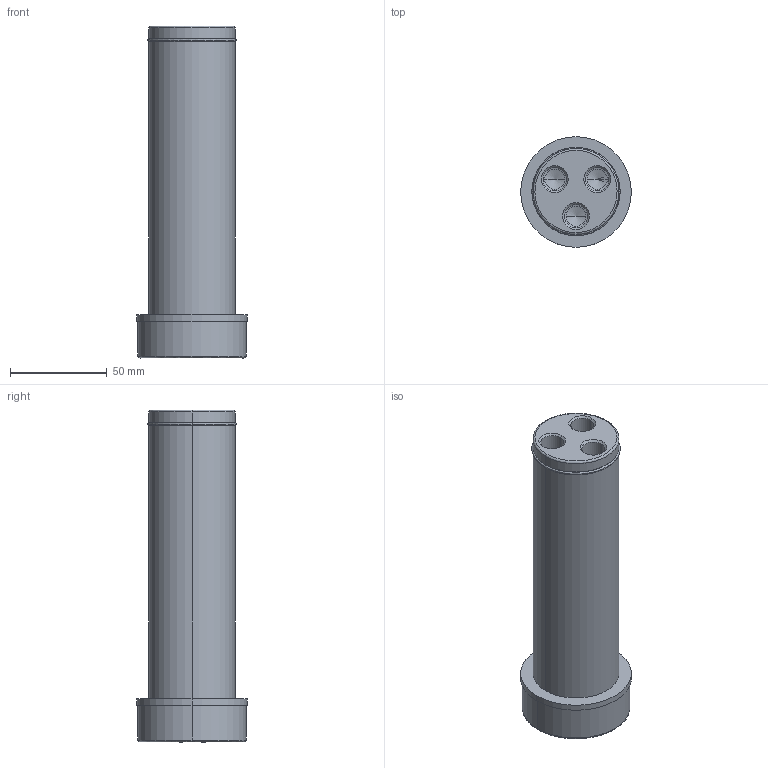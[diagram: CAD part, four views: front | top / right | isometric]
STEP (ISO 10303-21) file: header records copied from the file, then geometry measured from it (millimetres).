
FILE_DESCRIPTION (( 'STEP AP214' ), '1' );
FILE_NAME ('GK180-M-XXX-GuidePin.STEP', '2020-10-21T11:35:17', ( '' ), ( '' ), 'SwSTEP 2.0', 'SolidWorks 2017', '' );
FILE_SCHEMA (( 'AUTOMOTIVE_DESIGN' ));
Length unit declared in the file: inch
Products named in the file (4): GK180-DampeningWasher; GK180-M-XXX-GuidePin; GK180-Cring
Assembly tree (3 placements, depth 2):
  GK180-M-XXX-GuidePin
    GK180-M-XXX-GuidePin
    GK180-DampeningWasher
    GK180-Cring
Bounding box: 57.15 x 57.15 x 171.45 mm (x, y, z)
Volume: 274627 mm3; surface area: 37113.4 mm2
Topology: 3 solids, 3 shells, 59 faces, 122 edges, 67 vertices
Faces by surface type: cylinder 22, cone 18, bspline 12, plane 7
Entity records: 2390 total; most frequent: CARTESIAN_POINT 866, DIRECTION 278, ORIENTED_EDGE 232, AXIS2_PLACEMENT_3D 119, EDGE_CURVE 116, EDGE_LOOP 67, VERTEX_POINT 67, CIRCLE 66
